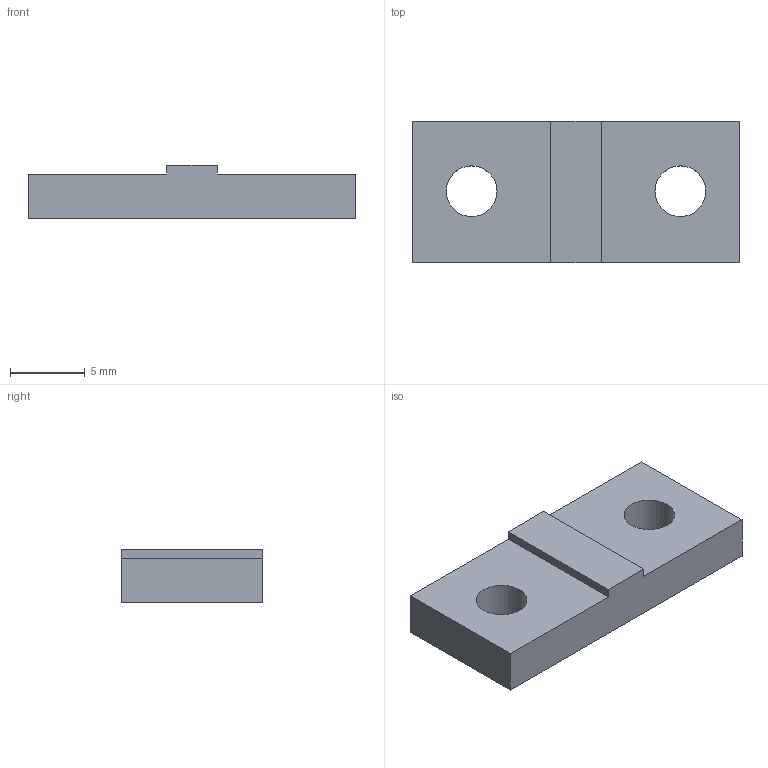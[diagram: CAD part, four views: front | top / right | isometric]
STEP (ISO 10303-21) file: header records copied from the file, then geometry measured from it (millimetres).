
FILE_DESCRIPTION(('Open CASCADE Model'),'2;1');
FILE_NAME('Open CASCADE Shape Model','2026-10-27T10:19:18',('Author'),( 'Open CASCADE'),'Open CASCADE STEP processor 8.0','build123d', 'Unknown');
FILE_SCHEMA(('AUTOMOTIVE_DESIGN { 1 0 10303 214 1 1 1 1 }'));
Length unit declared in the file: millimetre
Products named in the file (2): =>[0:1:1:2]; SOLID
Assembly tree (1 placements, depth 2):
  =>[0:1:1:2]
    SOLID
Bounding box: 22 x 9.5 x 3.6 mm (x, y, z)
Volume: 591.9 mm3; surface area: 650.3 mm2
Topology: 1 solids, 1 shells, 12 faces, 30 edges, 20 vertices
Faces by surface type: plane 10, cylinder 2
Full cylindrical faces by diameter (mm): 3.4 x2
Entity records: 780 total; most frequent: CARTESIAN_POINT 128, DIRECTION 118, LINE 78, VECTOR 78, ORIENTED_EDGE 60, PCURVE 60, DEFINITIONAL_REPRESENTATION 60, EDGE_CURVE 30
